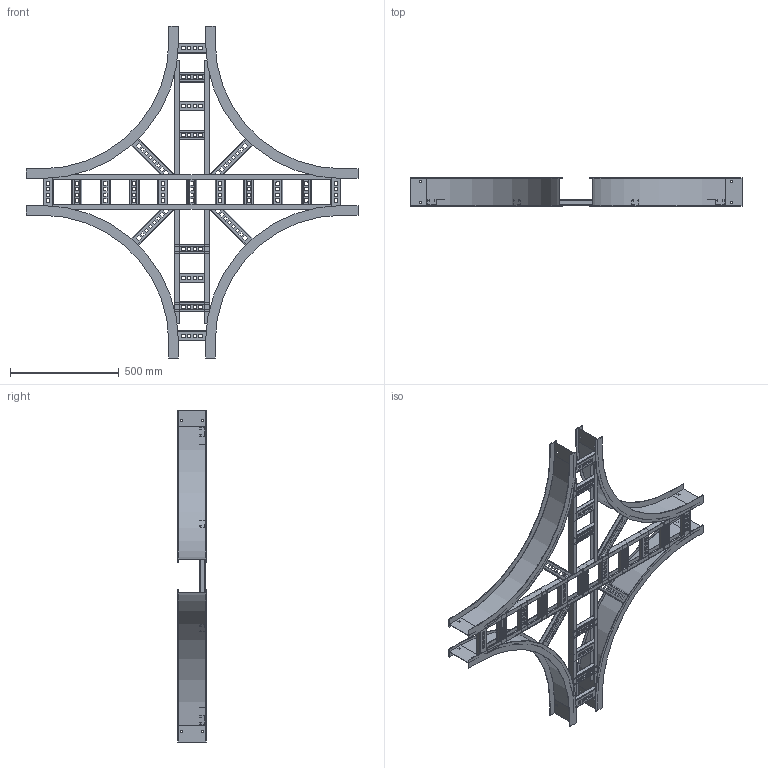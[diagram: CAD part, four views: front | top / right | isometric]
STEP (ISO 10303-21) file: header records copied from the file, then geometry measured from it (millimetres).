
FILE_DESCRIPTION((''),'2;1');
FILE_NAME('AHF506VHX24_ASM','2010-02-02T',('erouzier'),(''),'PRO/ENGINEER BY PARAMETRIC TECHNOLOGY CORPORATION, 2008510','PRO/ENGINEER BY PARAMETRIC TECHNOLOGY CORPORATION, 2008510','');
FILE_SCHEMA(('CONFIG_CONTROL_DESIGN'));
Length unit declared in the file: inch
Products named in the file (24): CDS001811-5-90-24-I; CDS002159L6-P_AF11; CDS002159L6-P_AF12; CDS002159L6-P_AF13; CDS002159L6-P_AF14; CDS002159L6-P_AF20; CDS002159L6-P_AF15; CDS002159L6-P_AF16; CDS002159L6-P_AF17; CDS002159L6-P_AF19; CDS002159L6-P_AF21; CDS002159L6-P_AF18; CDS000495_GEN_AF18; CDS000495_GEN_AF19; CDS000495_GEN_AF22; CDS000495_GEN_AF23; CDS000495_GEN_AF20; CDS000495_GEN_AF21; CDS002159L12-P_AF27; CDS002159L12-P_AF28; CDS002159L12-P_AF25; CDS002159L12-P_AF26; CDS002159L6-P; AHF506VHX24_ASM
Assembly tree (33 placements, depth 2):
  AHF506VHX24_ASM
    CDS001811-5-90-24-I  x4
    CDS002159L6-P_AF11
    CDS002159L6-P_AF12
    CDS002159L6-P_AF13
    CDS002159L6-P_AF14
    CDS002159L6-P_AF20
    CDS002159L6-P_AF15
    CDS002159L6-P_AF16
    CDS002159L6-P_AF17
    CDS002159L6-P_AF19
    CDS002159L6-P_AF21
    CDS002159L6-P_AF18
    CDS000495_GEN_AF18
    CDS000495_GEN_AF19
    CDS000495_GEN_AF22
    CDS000495_GEN_AF23
    CDS000495_GEN_AF20
    CDS000495_GEN_AF21
    CDS002159L12-P_AF27
    CDS002159L12-P_AF28
    CDS002159L12-P_AF25
    CDS002159L12-P_AF26
    CDS002159L6-P  x8
Bounding box: 1528.06 x 129.03 x 1528.06 mm (x, y, z)
Volume: 3244451 mm3; surface area: 3415901.5 mm2
Topology: 33 solids, 33 shells, 1798 faces, 5196 edges, 3464 vertices
Faces by surface type: plane 1089, cylinder 709
Entity records: 42018 total; most frequent: CARTESIAN_POINT 7635, ORIENTED_EDGE 7152, DIRECTION 7082, EDGE_CURVE 3576, VECTOR 2572, LINE 2572, VERTEX_POINT 2384, AXIS2_PLACEMENT_3D 2255
